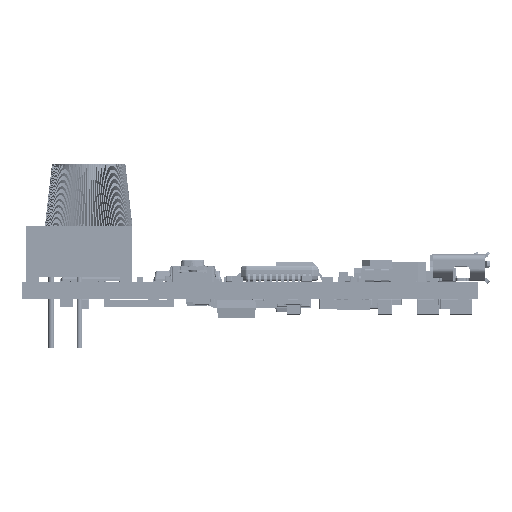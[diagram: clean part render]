
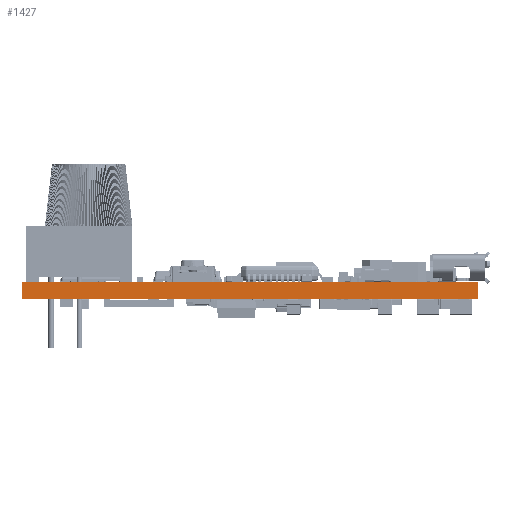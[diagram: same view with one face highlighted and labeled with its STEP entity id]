
A CAD part, left-side view. The second image highlights one B-rep face of the part: STEP entity #1427.
In plain terms, the highlighted planar face has unit normal (-1, 0, 0).
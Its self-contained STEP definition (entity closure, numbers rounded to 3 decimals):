
#829 = EDGE_CURVE('',#830,#832,#834,.T.);
#830 = VERTEX_POINT('',#831);
#831 = CARTESIAN_POINT('',(0.,0.,0.));
#832 = VERTEX_POINT('',#833);
#833 = CARTESIAN_POINT('',(0.,0.,1.556));
#834 = LINE('',#835,#836);
#835 = CARTESIAN_POINT('',(0.,0.,0.));
#836 = VECTOR('',#837,1.);
#837 = DIRECTION('',(0.,0.,1.));
#1402 = VERTEX_POINT('',#1403);
#1403 = CARTESIAN_POINT('',(0.,41.,1.556));
#1409 = EDGE_CURVE('',#1410,#1402,#1412,.T.);
#1410 = VERTEX_POINT('',#1411);
#1411 = CARTESIAN_POINT('',(0.,41.,0.));
#1412 = LINE('',#1413,#1414);
#1413 = CARTESIAN_POINT('',(0.,41.,0.));
#1414 = VECTOR('',#1415,1.);
#1415 = DIRECTION('',(0.,0.,1.));
#1427 = ADVANCED_FACE('',(#1428),#1444,.F.);
#1428 = FACE_BOUND('',#1429,.F.);
#1429 = EDGE_LOOP('',(#1430,#1431,#1437,#1438));
#1430 = ORIENTED_EDGE('',*,*,#1409,.T.);
#1431 = ORIENTED_EDGE('',*,*,#1432,.T.);
#1432 = EDGE_CURVE('',#1402,#832,#1433,.T.);
#1433 = LINE('',#1434,#1435);
#1434 = CARTESIAN_POINT('',(0.,41.,1.556));
#1435 = VECTOR('',#1436,1.);
#1436 = DIRECTION('',(0.,-1.,0.));
#1437 = ORIENTED_EDGE('',*,*,#829,.F.);
#1438 = ORIENTED_EDGE('',*,*,#1439,.F.);
#1439 = EDGE_CURVE('',#1410,#830,#1440,.T.);
#1440 = LINE('',#1441,#1442);
#1441 = CARTESIAN_POINT('',(0.,41.,0.));
#1442 = VECTOR('',#1443,1.);
#1443 = DIRECTION('',(0.,-1.,0.));
#1444 = PLANE('',#1445);
#1445 = AXIS2_PLACEMENT_3D('',#1446,#1447,#1448);
#1446 = CARTESIAN_POINT('',(0.,41.,0.));
#1447 = DIRECTION('',(1.,0.,0.));
#1448 = DIRECTION('',(0.,-1.,0.));
